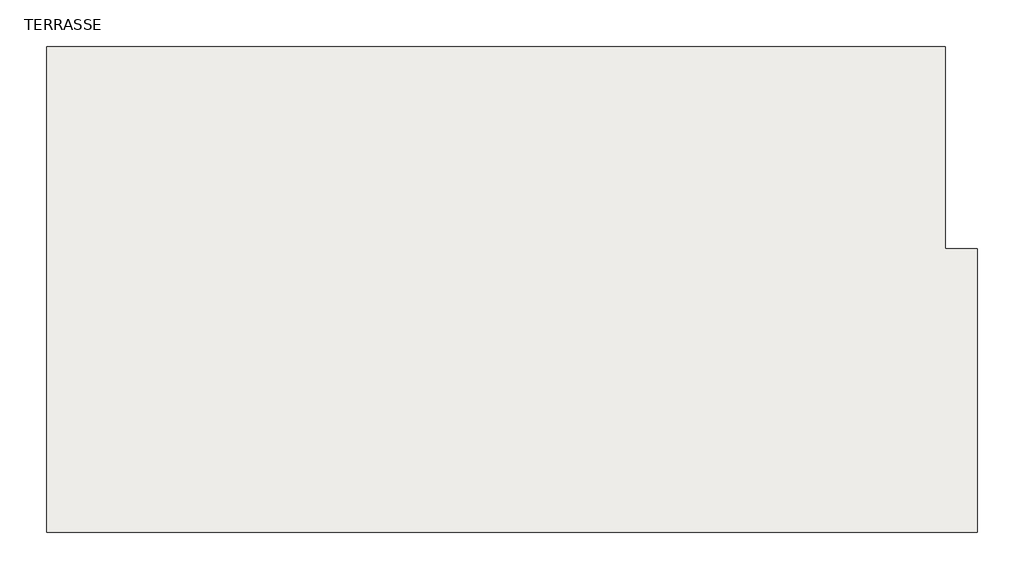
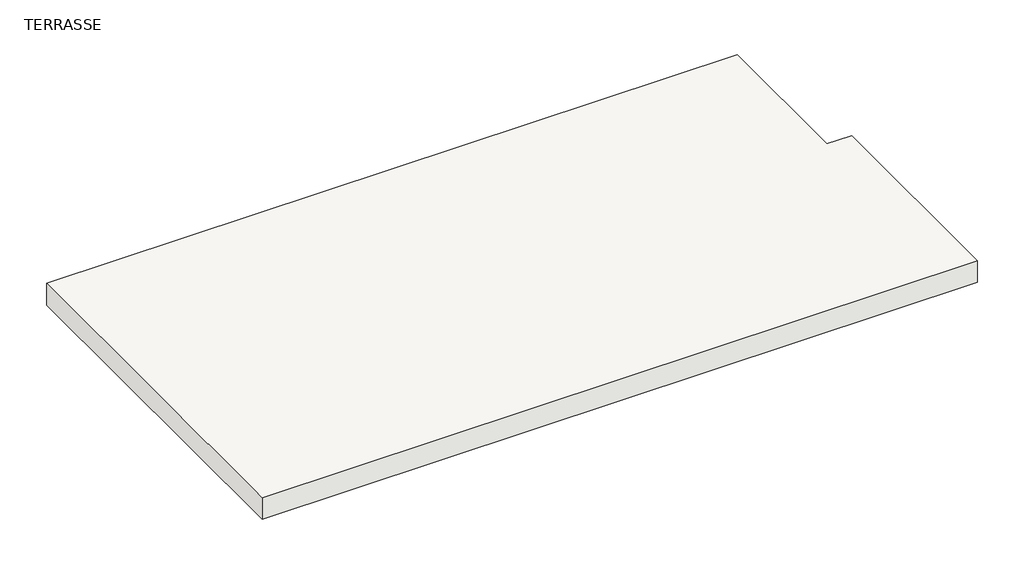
# One storey: 1 slab.
"""IFC4 building model written with IfcOpenShell, lengths in millimetres."""

from ifc_helpers import new_model, si_unit, frame, origin, place, context, project, spatial, polyline, outline, extrude, element, save

model = new_model("IFC4")

# Units and contexts
model_context = context("Model", 3, world=origin())
ifc_project = project(units=[si_unit("LENGTHUNIT", "METRE", prefix="MILLI")], contexts=[model_context])

# Site, building, storey
site = spatial("IfcSite", under=ifc_project)
building = spatial("IfcBuilding", under=site)
storey = spatial("IfcBuildingStorey", under=building, Name="TERRASSE", Elevation=-170.0)

# Slab
placement = place(None, origin())
element("IfcSlab", 1, ObjectType="dalle béton 20 cm + 2 cm carrellage", at=placement, inside=storey, context=model_context, shape_type="SweptSolid", body=[
    extrude(outline(polyline([(-18008.2926959, -3212.6202268), (-18008.2926959, 387.3797732), (-11348.2926959, 387.3797732), (-11348.2926959, -1112.6202268), (-11108.2926959, -1112.6202268), (-11108.2926959, -3212.6202268), (-18008.2926959, -3212.6202268)])), frame((0.0, 0.0, -390.0), z_axis=(0.0, 0.0, 1.0), x_axis=(1.0, 0.0, 0.0)), (0.0, 0.0, 1.0), 220.0),
])

save(model, "model.ifc")
